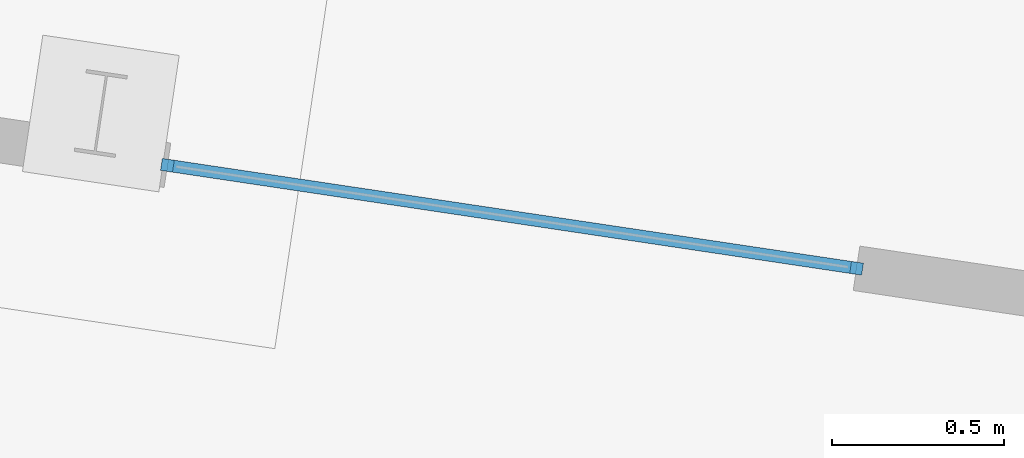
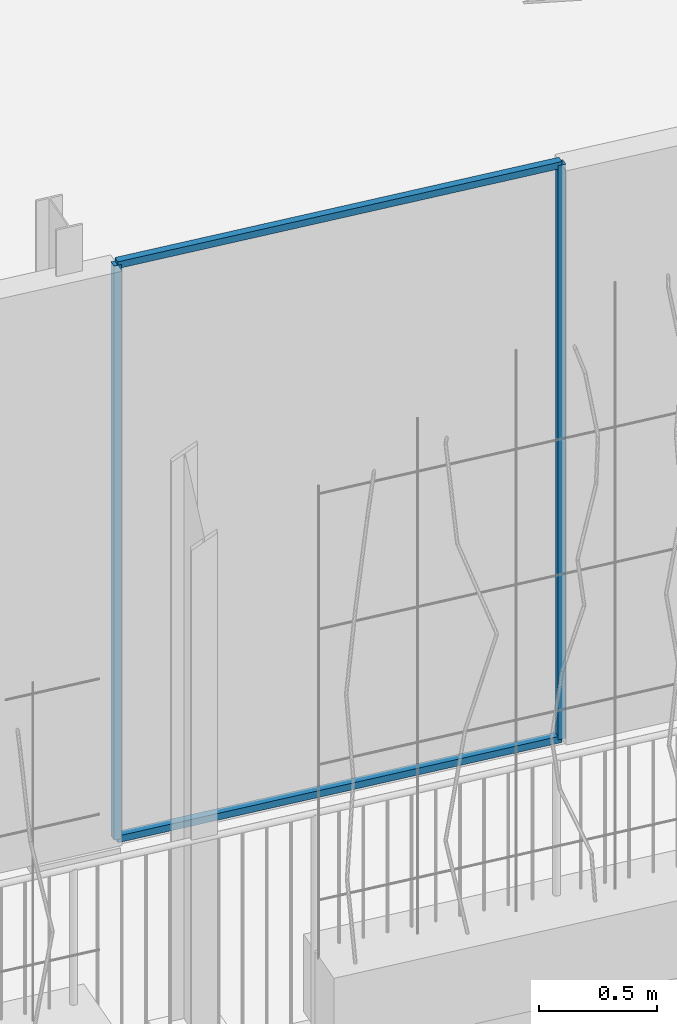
# One storey, part 91 of 142: 4 members.
"""IFC4 building model written with IfcOpenShell, lengths in metres."""

from ifc_helpers import new_model, si_unit, direction, frame, origin_with_axes, place, context, subcontext, project, spatial, rectangle, extrude, material, material_profile, profile_set, profile_usage, type_object, element, save


model = new_model("IFC4")

# Units and contexts
model_context = context("Model", 3, precision=1e-05, world=origin_with_axes(), true_north=direction((0.0, 1.0)))
body_context = subcontext(model_context, "Body", "Model", "MODEL_VIEW")
ifc_project = project(units=[si_unit("VOLUMEUNIT", "CUBIC_METRE"), si_unit("LENGTHUNIT", "METRE"), si_unit("AREAUNIT", "SQUARE_METRE")], contexts=[model_context])

# Site, building, storey
site_placement = place(None, origin_with_axes())
site = spatial("IfcSite", under=ifc_project, at=site_placement, Name="Lares · Rua das Mercês · artigo 4771")
building_placement = place(site_placement, frame((12.0, 10.2, 13.9), z_axis=(0.0, 0.0, 1.0), x_axis=(0.989015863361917, -0.147809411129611, 0.0)))
building = spatial("IfcBuilding", under=site, at=building_placement, Name="Casa Sobreposta")
storey_placement = place(building_placement, origin_with_axes())
storey = spatial("IfcBuildingStorey", under=building, at=storey_placement, Name="00 · Habitação e estacionamento", Elevation=13.9)

# Members
ifc_material = material(Name="Aço pintado / Stahl lackiert", Category="steel")
ifc_material_profile = material_profile(ifc_material, rectangle(XDim=0.035, YDim=0.035))
ifc_profile_set = profile_set([ifc_material_profile], Name="R0.035")
ifc_profile_usage_1 = profile_usage(ifc_profile_set)
member_type = type_object("IfcMemberType", Name="R0.035 / steel", PredefinedType="NOTDEFINED", material=ifc_profile_set)
member_1_placement = place(storey_placement, frame((20.2133333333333, 0.0, 0.0), z_axis=(0.0, 0.0, 1.0), x_axis=(1.0, 0.0, 0.0)))
element("IfcMember", 1, at=member_1_placement, inside=storey, type_object=member_type, material=ifc_profile_usage_1, Name="Folha de correr sul 10 · montante", context=body_context, shape_type="SweptSolid", body=[
    extrude(rectangle(XDim=0.035, YDim=0.035), origin_with_axes(), (0.0, 0.0, 1.0), 2.968),
])
ifc_profile_usage_2 = profile_usage(ifc_profile_set)
member_2_placement = place(storey_placement, frame((22.2346666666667, 0.0, 0.0), z_axis=(0.0, 0.0, 1.0), x_axis=(1.0, 0.0, 0.0)))
element("IfcMember", 2, at=member_2_placement, inside=storey, type_object=member_type, material=ifc_profile_usage_2, Name="Folha de correr sul 10 · montante", context=body_context, shape_type="SweptSolid", body=[
    extrude(rectangle(XDim=0.035, YDim=0.035), origin_with_axes(), (0.0, 0.0, 1.0), 2.968),
])
ifc_profile_usage_3 = profile_usage(ifc_profile_set)
member_3_placement = place(storey_placement, frame((20.2133333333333, 0.0, 0.0), z_axis=(1.0, 0.0, 0.0), x_axis=(0.0, -1.0, 0.0)))
element("IfcMember", 3, at=member_3_placement, inside=storey, type_object=member_type, material=ifc_profile_usage_3, Name="Folha de correr sul 10 · travessa", context=body_context, shape_type="SweptSolid", body=[
    extrude(rectangle(XDim=0.035, YDim=0.035), origin_with_axes(), (0.0, 0.0, 1.0), 2.02133333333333),
])
ifc_profile_usage_4 = profile_usage(ifc_profile_set)
member_4_placement = place(storey_placement, frame((20.2133333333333, 0.0, 2.968), z_axis=(1.0, 0.0, 0.0), x_axis=(0.0, -1.0, 0.0)))
element("IfcMember", 4, at=member_4_placement, inside=storey, type_object=member_type, material=ifc_profile_usage_4, Name="Folha de correr sul 10 · travessa", context=body_context, shape_type="SweptSolid", body=[
    extrude(rectangle(XDim=0.035, YDim=0.035), origin_with_axes(), (0.0, 0.0, 1.0), 2.02133333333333),
])

save(model, "model.ifc")
